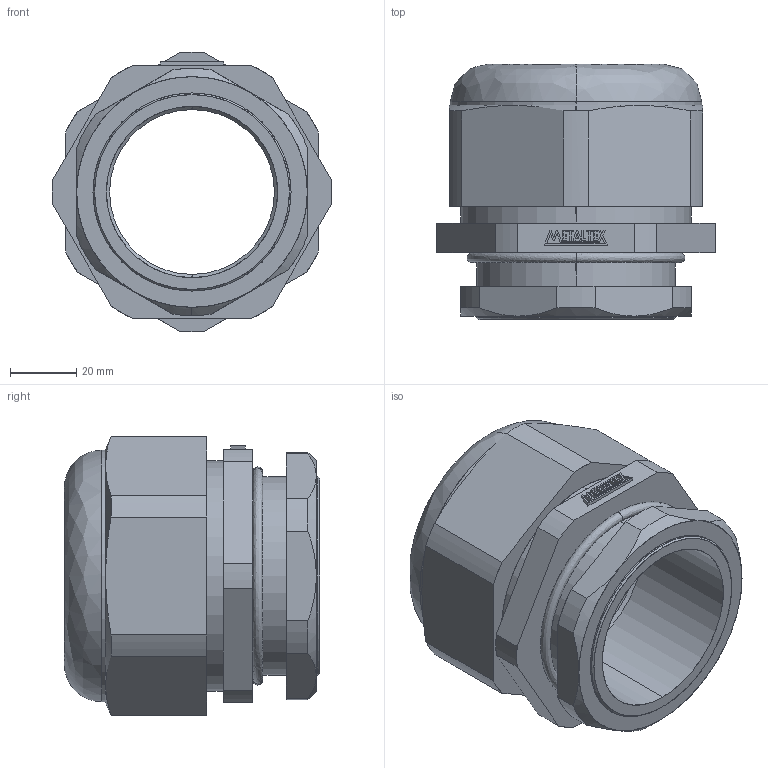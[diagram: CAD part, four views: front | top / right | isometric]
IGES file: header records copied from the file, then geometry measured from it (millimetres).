
Start section: SolidWorks IGES file using analytic representation for surfaces
Global section: file name: D:\X - Arquivos\PROEX\Empresas\P11 - METALTEX\01 - Produtos\IGES\Terceira remessa\Etapa 2\CH-B2.IGS; native system: SolidWorks 2012; preprocessor: SolidWorks 2012; author: Usuario; date: 180207.124943; units: millimetre
Bounding box: 84.1 x 76.8 x 84.1 mm (x, y, z)
Surface area: 40960.3 mm2 (no closed solid volume)
Topology: 0 solids, 0 shells, 174 faces, 1659 edges, 1659 vertices
Faces by surface type: bspline 125, revolution 49
